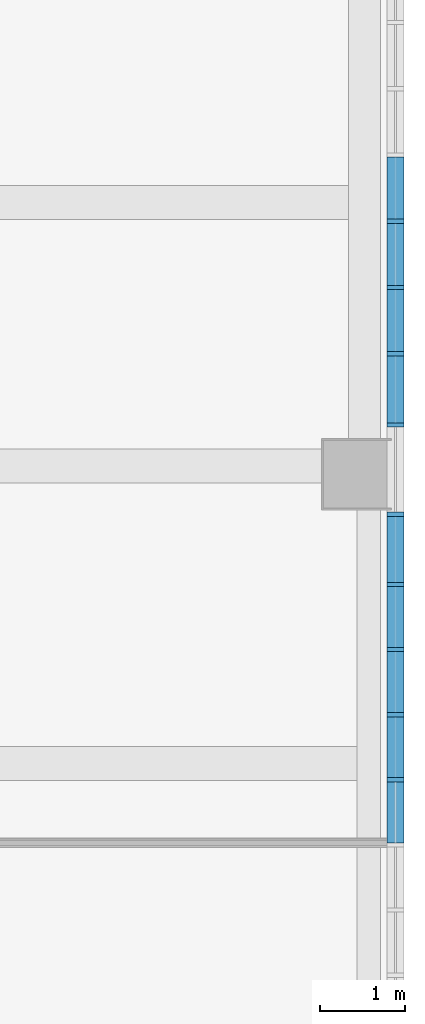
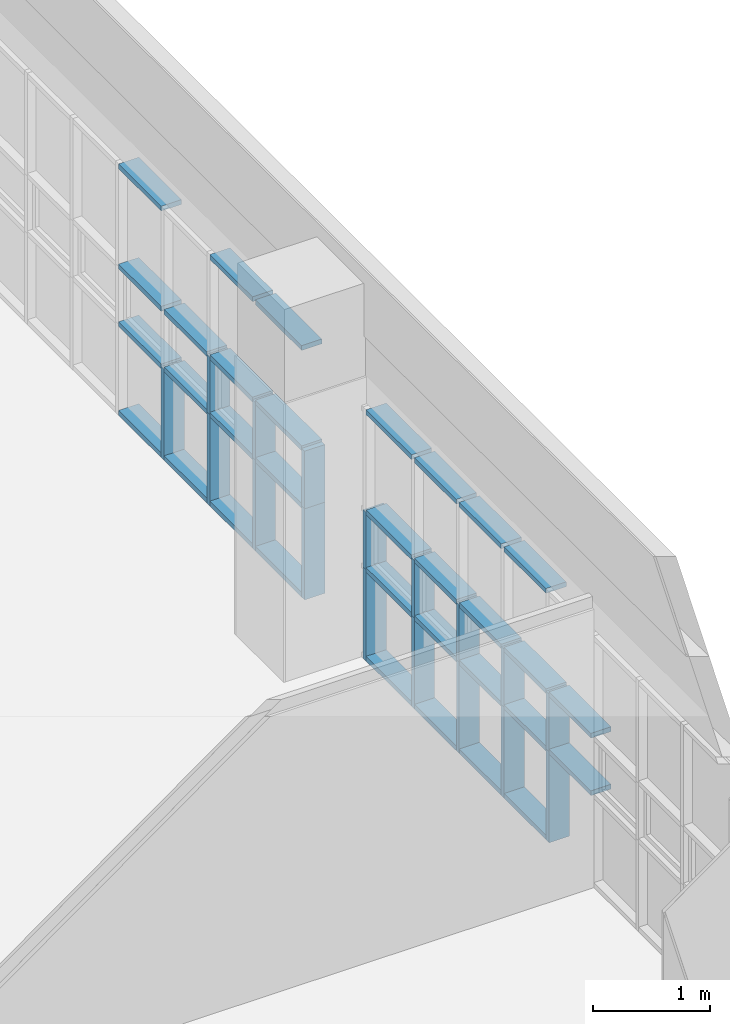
# One storey, part 24 of 76: 50 members, 1 element without a shape of its own.
"""IFC2X3 building model written with IfcOpenShell, lengths in millimetres."""

from ifc_helpers import new_model, entity, si_unit, converted_unit, derived_unit, direction, frame, origin, origin_2d_with_axis, place, context, subcontext, project, spatial, rectangle, extrude, source, transform, mapped, material, type_object, type_shapes, element, aggregate, save


model = new_model("IFC2X3")

# Units and contexts
model_context = context("Model", 3, precision=0.01, world=origin(), true_north=direction((6.123031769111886e-17, 1.0)))
body_context = subcontext(model_context, "Body", "Model", "MODEL_VIEW")
ifc_project = project(units=[si_unit("LENGTHUNIT", "METRE", prefix="MILLI"), si_unit("AREAUNIT", "SQUARE_METRE"), si_unit("VOLUMEUNIT", "CUBIC_METRE"), converted_unit("PLANEANGLEUNIT", "DEGREE", entity("IfcRatioMeasure", 0.017453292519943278), si_unit("PLANEANGLEUNIT", "RADIAN"), dimensions=[0, 0, 0, 0, 0, 0, 0]), si_unit("MASSUNIT", "GRAM", prefix="KILO"), derived_unit("MASSDENSITYUNIT", [(si_unit("MASSUNIT", "GRAM", prefix="KILO"), 1), (si_unit("LENGTHUNIT", "METRE"), -3)]), derived_unit("MOMENTOFINERTIAUNIT", [(si_unit("LENGTHUNIT", "METRE"), 4)]), si_unit("TIMEUNIT", "SECOND"), si_unit("FREQUENCYUNIT", "HERTZ"), si_unit("THERMODYNAMICTEMPERATUREUNIT", "DEGREE_CELSIUS"), derived_unit("THERMALTRANSMITTANCEUNIT", [(si_unit("MASSUNIT", "GRAM", prefix="KILO"), 1), (si_unit("THERMODYNAMICTEMPERATUREUNIT", "KELVIN"), -1), (si_unit("TIMEUNIT", "SECOND"), -3)]), derived_unit("VOLUMETRICFLOWRATEUNIT", [(si_unit("LENGTHUNIT", "METRE"), 3), (si_unit("TIMEUNIT", "SECOND"), -1)]), derived_unit("MASSFLOWRATEUNIT", [(si_unit("MASSUNIT", "GRAM", prefix="KILO"), 1), (si_unit("TIMEUNIT", "SECOND"), -1)]), derived_unit("ROTATIONALFREQUENCYUNIT", [(si_unit("TIMEUNIT", "SECOND"), -1)]), si_unit("ELECTRICCURRENTUNIT", "AMPERE"), si_unit("ELECTRICVOLTAGEUNIT", "VOLT"), si_unit("POWERUNIT", "WATT"), si_unit("FORCEUNIT", "NEWTON", prefix="KILO"), si_unit("ILLUMINANCEUNIT", "LUX"), si_unit("LUMINOUSFLUXUNIT", "LUMEN"), si_unit("LUMINOUSINTENSITYUNIT", "CANDELA"), derived_unit("USERDEFINED", [(si_unit("MASSUNIT", "GRAM", prefix="KILO"), -1), (si_unit("LENGTHUNIT", "METRE"), -2), (si_unit("TIMEUNIT", "SECOND"), 3), (si_unit("LUMINOUSFLUXUNIT", "LUMEN"), 1)]), derived_unit("SOUNDPOWERUNIT", [(si_unit("MASSUNIT", "GRAM", prefix="KILO"), 1), (si_unit("LENGTHUNIT", "METRE"), 2), (si_unit("TIMEUNIT", "SECOND"), -3)]), derived_unit("SOUNDPRESSUREUNIT", [(si_unit("MASSUNIT", "GRAM", prefix="KILO"), 1), (si_unit("LENGTHUNIT", "METRE"), -1), (si_unit("TIMEUNIT", "SECOND"), -2)]), derived_unit("LINEARVELOCITYUNIT", [(si_unit("LENGTHUNIT", "METRE"), 1), (si_unit("TIMEUNIT", "SECOND"), -1)]), si_unit("PRESSUREUNIT", "PASCAL"), derived_unit("USERDEFINED", [(si_unit("LENGTHUNIT", "METRE"), -2), (si_unit("MASSUNIT", "GRAM", prefix="KILO"), 1), (si_unit("TIMEUNIT", "SECOND"), -2)]), derived_unit("LINEARFORCEUNIT", [(si_unit("MASSUNIT", "GRAM", prefix="KILO"), 1), (si_unit("LENGTHUNIT", "METRE"), 1), (si_unit("TIMEUNIT", "SECOND"), -2), (si_unit("LENGTHUNIT", "METRE"), -1)]), derived_unit("PLANARFORCEUNIT", [(si_unit("MASSUNIT", "GRAM", prefix="KILO"), 1), (si_unit("LENGTHUNIT", "METRE"), 1), (si_unit("TIMEUNIT", "SECOND"), -2), (si_unit("LENGTHUNIT", "METRE"), -2)])], contexts=[model_context])

# Site, building, storey
site_placement = place(None, frame((-14167.972527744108, -657.2125860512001, 0.0)))
site = spatial("IfcSite", under=ifc_project, at=site_placement, Name="Default", CompositionType="ELEMENT")
building_placement = place(site_placement, origin())
building = spatial("IfcBuilding", under=site, at=building_placement, Name="Sample Building", CompositionType="ELEMENT")
storey_placement = place(building_placement, frame((0.0, 0.0, 9300.0)))
storey = spatial("IfcBuildingStorey", under=building, at=storey_placement, Name="지상 3층", CompositionType="ELEMENT", Elevation=9300.000000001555)

# Curtain wall, members
curtain_wall_type = type_object("IfcCurtainWallType", Name="커튼월:CW112-스테인리스 스틸 커튼월", PredefinedType="NOTDEFINED")
curtain_wall_placement = place(storey_placement, frame((0.0, 0.0, -9300.0)))
curtain_wall = element("IfcCurtainWall", 1, at=curtain_wall_placement, inside=storey, type_object=curtain_wall_type, Name="커튼월:CW112-스테인리스 스틸 커튼월", ObjectType="커튼월:CW112-스테인리스 스틸 커튼월")
ifc_material = material(Name="<Unnamed>")
member_type_1 = type_object("IfcMemberType", Name="직사각형 멀리언:CW200-직사각형 멀리언 50x200mm", PredefinedType="MULLION", material=ifc_material)
shared_shape_1 = source(origin(), body_context, "Body", "SweptSolid", [
    extrude(rectangle(XDim=200.0, YDim=50.0, at=origin_2d_with_axis()), frame((0.0, 0.0, -600.0), z_axis=(0.0, 0.0, 1.0), x_axis=(0.0, -1.0, 0.0)), (0.0, 0.0, 1.0), 600.0),
])
type_shapes(member_type_1, [shared_shape_1])
member_1_placement = place(curtain_wall_placement, frame((51517.963828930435, 18662.817707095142, 10330.0), z_axis=(0.0, 0.0, -1.0), x_axis=(0.0, -1.0, 0.0)))
member_1 = element("IfcMember", 2, at=member_1_placement, type_object=member_type_1, material=ifc_material, Name="직사각형 멀리언:CW200-직사각형 멀리언 50x200mm", ObjectType="직사각형 멀리언:CW200-직사각형 멀리언 50x200mm", context=body_context, shape_type="MappedRepresentation", body=[
    mapped(shared_shape_1, transform((0.0, 0.0, 0.0), scale=1.0)),
])
member_type_2 = type_object("IfcMemberType", Name="직사각형 멀리언:CW200-직사각형 멀리언 50x200mm", PredefinedType="MULLION", material=ifc_material)
shared_shape_2 = source(origin(), body_context, "Body", "SweptSolid", [
    extrude(rectangle(XDim=200.0, YDim=50.0, at=origin_2d_with_axis()), frame((0.0, 0.0, -950.0), z_axis=(0.0, 0.0, 1.0), x_axis=(0.0, -1.0, 0.0)), (0.0, 0.0, 1.0), 950.0000000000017),
])
type_shapes(member_type_2, [shared_shape_2])
member_2_placement = place(curtain_wall_placement, frame((51517.963828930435, 22935.817707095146, 9380.0), z_axis=(0.0, 0.0, -1.0), x_axis=(0.0, -1.0, 0.0)))
member_2 = element("IfcMember", 3, at=member_2_placement, type_object=member_type_2, material=ifc_material, Name="직사각형 멀리언:CW200-직사각형 멀리언 50x200mm", ObjectType="직사각형 멀리언:CW200-직사각형 멀리언 50x200mm", context=body_context, shape_type="MappedRepresentation", body=[
    mapped(shared_shape_2, transform((0.0, 0.0, 0.0), scale=1.0)),
])
member_3_placement = place(curtain_wall_placement, frame((51517.963828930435, 22156.817707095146, 9380.0), z_axis=(0.0, 0.0, -1.0), x_axis=(0.0, -1.0, 0.0)))
member_3 = element("IfcMember", 4, at=member_3_placement, type_object=member_type_2, material=ifc_material, Name="직사각형 멀리언:CW200-직사각형 멀리언 50x200mm", ObjectType="직사각형 멀리언:CW200-직사각형 멀리언 50x200mm", context=body_context, shape_type="MappedRepresentation", body=[
    mapped(shared_shape_2, transform((0.0, 0.0, 0.0), scale=1.0)),
])
member_4_placement = place(curtain_wall_placement, frame((51517.963828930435, 21377.817707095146, 9380.0), z_axis=(0.0, 0.0, -1.0), x_axis=(0.0, -1.0, 0.0)))
member_4 = element("IfcMember", 5, at=member_4_placement, type_object=member_type_2, material=ifc_material, Name="직사각형 멀리언:CW200-직사각형 멀리언 50x200mm", ObjectType="직사각형 멀리언:CW200-직사각형 멀리언 50x200mm", context=body_context, shape_type="MappedRepresentation", body=[
    mapped(shared_shape_2, transform((0.0, 0.0, 0.0), scale=1.0)),
])
member_5_placement = place(curtain_wall_placement, frame((51517.963828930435, 20538.817707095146, 9380.0), z_axis=(0.0, 0.0, -1.0), x_axis=(0.0, -1.0, 0.0)))
member_5 = element("IfcMember", 6, at=member_5_placement, type_object=member_type_2, material=ifc_material, Name="직사각형 멀리언:CW200-직사각형 멀리언 50x200mm", ObjectType="직사각형 멀리언:CW200-직사각형 멀리언 50x200mm", context=body_context, shape_type="MappedRepresentation", body=[
    mapped(shared_shape_2, transform((0.0, 0.0, 0.0), scale=1.0)),
])
member_6_placement = place(curtain_wall_placement, frame((51517.963828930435, 17896.817707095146, 9380.0), z_axis=(0.0, 0.0, -1.0), x_axis=(0.0, -1.0, 0.0)))
member_6 = element("IfcMember", 7, at=member_6_placement, type_object=member_type_2, material=ifc_material, Name="직사각형 멀리언:CW200-직사각형 멀리언 50x200mm", ObjectType="직사각형 멀리언:CW200-직사각형 멀리언 50x200mm", context=body_context, shape_type="MappedRepresentation", body=[
    mapped(shared_shape_2, transform((0.0, 0.0, 0.0), scale=1.0)),
])
member_7_placement = place(curtain_wall_placement, frame((51517.963828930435, 19488.817707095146, 9380.0), z_axis=(0.0, 0.0, -1.0), x_axis=(0.0, -1.0, 0.0)))
member_7 = element("IfcMember", 8, at=member_7_placement, type_object=member_type_2, material=ifc_material, Name="직사각형 멀리언:CW200-직사각형 멀리언 50x200mm", ObjectType="직사각형 멀리언:CW200-직사각형 멀리언 50x200mm", context=body_context, shape_type="MappedRepresentation", body=[
    mapped(shared_shape_2, transform((0.0, 0.0, 0.0), scale=1.0)),
])
member_8_placement = place(curtain_wall_placement, frame((51517.96382893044, 17130.817707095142, 9380.0), z_axis=(0.0, 0.0, -1.0), x_axis=(0.0, -1.0, 0.0)))
member_8 = element("IfcMember", 9, at=member_8_placement, type_object=member_type_2, material=ifc_material, Name="직사각형 멀리언:CW200-직사각형 멀리언 50x200mm", ObjectType="직사각형 멀리언:CW200-직사각형 멀리언 50x200mm", context=body_context, shape_type="MappedRepresentation", body=[
    mapped(shared_shape_2, transform((0.0, 0.0, 0.0), scale=1.0)),
])
member_9_placement = place(curtain_wall_placement, frame((51517.96382893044, 16364.817707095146, 9380.0), z_axis=(0.0, 0.0, -1.0), x_axis=(0.0, -1.0, 0.0)))
member_9 = element("IfcMember", 10, at=member_9_placement, type_object=member_type_2, material=ifc_material, Name="직사각형 멀리언:CW200-직사각형 멀리언 50x200mm", ObjectType="직사각형 멀리언:CW200-직사각형 멀리언 50x200mm", context=body_context, shape_type="MappedRepresentation", body=[
    mapped(shared_shape_2, transform((0.0, 0.0, 0.0), scale=1.0)),
])
member_type_3 = type_object("IfcMemberType", Name="직사각형 멀리언:CW200-직사각형 멀리언 50x200mm", PredefinedType="MULLION", material=ifc_material)
shared_shape_3 = source(origin(), body_context, "Body", "SweptSolid", [
    extrude(rectangle(XDim=200.0, YDim=50.0, at=origin_2d_with_axis()), frame((0.0, 0.0, -600.0), z_axis=(0.0, 0.0, 1.0), x_axis=(0.0, -1.0, 0.0)), (0.0, 0.0, 1.0), 599.9999999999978),
])
type_shapes(member_type_3, [shared_shape_3])
member_10_placement = place(curtain_wall_placement, frame((51517.963828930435, 22156.817707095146, 10330.0), z_axis=(0.0, 0.0, -1.0), x_axis=(0.0, -1.0, 0.0)))
member_10 = element("IfcMember", 11, at=member_10_placement, type_object=member_type_3, material=ifc_material, Name="직사각형 멀리언:CW200-직사각형 멀리언 50x200mm", ObjectType="직사각형 멀리언:CW200-직사각형 멀리언 50x200mm", context=body_context, shape_type="MappedRepresentation", body=[
    mapped(shared_shape_3, transform((0.0, 0.0, 0.0), scale=1.0)),
])
member_11_placement = place(curtain_wall_placement, frame((51517.963828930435, 21377.817707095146, 10330.0), z_axis=(0.0, 0.0, -1.0), x_axis=(0.0, -1.0, 0.0)))
member_11 = element("IfcMember", 12, at=member_11_placement, type_object=member_type_3, material=ifc_material, Name="직사각형 멀리언:CW200-직사각형 멀리언 50x200mm", ObjectType="직사각형 멀리언:CW200-직사각형 멀리언 50x200mm", context=body_context, shape_type="MappedRepresentation", body=[
    mapped(shared_shape_3, transform((0.0, 0.0, 0.0), scale=1.0)),
])
member_12_placement = place(curtain_wall_placement, frame((51517.963828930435, 20538.817707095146, 10330.0), z_axis=(0.0, 0.0, -1.0), x_axis=(0.0, -1.0, 0.0)))
member_12 = element("IfcMember", 13, at=member_12_placement, type_object=member_type_3, material=ifc_material, Name="직사각형 멀리언:CW200-직사각형 멀리언 50x200mm", ObjectType="직사각형 멀리언:CW200-직사각형 멀리언 50x200mm", context=body_context, shape_type="MappedRepresentation", body=[
    mapped(shared_shape_3, transform((0.0, 0.0, 0.0), scale=1.0)),
])
member_13_placement = place(curtain_wall_placement, frame((51517.963828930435, 17896.817707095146, 10330.0), z_axis=(0.0, 0.0, -1.0), x_axis=(0.0, -1.0, 0.0)))
member_13 = element("IfcMember", 14, at=member_13_placement, type_object=member_type_3, material=ifc_material, Name="직사각형 멀리언:CW200-직사각형 멀리언 50x200mm", ObjectType="직사각형 멀리언:CW200-직사각형 멀리언 50x200mm", context=body_context, shape_type="MappedRepresentation", body=[
    mapped(shared_shape_3, transform((0.0, 0.0, 0.0), scale=1.0)),
])
member_14_placement = place(curtain_wall_placement, frame((51517.963828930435, 19488.817707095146, 10330.0), z_axis=(0.0, 0.0, -1.0), x_axis=(0.0, -1.0, 0.0)))
member_14 = element("IfcMember", 15, at=member_14_placement, type_object=member_type_3, material=ifc_material, Name="직사각형 멀리언:CW200-직사각형 멀리언 50x200mm", ObjectType="직사각형 멀리언:CW200-직사각형 멀리언 50x200mm", context=body_context, shape_type="MappedRepresentation", body=[
    mapped(shared_shape_3, transform((0.0, 0.0, 0.0), scale=1.0)),
])
member_15_placement = place(curtain_wall_placement, frame((51517.96382893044, 17130.817707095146, 10330.0), z_axis=(0.0, 0.0, -1.0), x_axis=(0.0, -1.0, 0.0)))
member_15 = element("IfcMember", 16, at=member_15_placement, type_object=member_type_3, material=ifc_material, Name="직사각형 멀리언:CW200-직사각형 멀리언 50x200mm", ObjectType="직사각형 멀리언:CW200-직사각형 멀리언 50x200mm", context=body_context, shape_type="MappedRepresentation", body=[
    mapped(shared_shape_3, transform((0.0, 0.0, 0.0), scale=1.0)),
])
member_16_placement = place(curtain_wall_placement, frame((51517.96382893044, 16364.817707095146, 10330.0), z_axis=(0.0, 0.0, -1.0), x_axis=(0.0, -1.0, 0.0)))
member_16 = element("IfcMember", 17, at=member_16_placement, type_object=member_type_3, material=ifc_material, Name="직사각형 멀리언:CW200-직사각형 멀리언 50x200mm", ObjectType="직사각형 멀리언:CW200-직사각형 멀리언 50x200mm", context=body_context, shape_type="MappedRepresentation", body=[
    mapped(shared_shape_3, transform((0.0, 0.0, 0.0), scale=1.0)),
])
member_type_4 = type_object("IfcMemberType", Name="직사각형 멀리언:CW200-직사각형 멀리언 50x200mm", PredefinedType="MULLION", material=ifc_material)
shared_shape_4 = source(origin(), body_context, "Body", "SweptSolid", [
    extrude(rectangle(XDim=200.0, YDim=50.0, at=origin_2d_with_axis()), frame((-25.0, 0.0, -729.0), z_axis=(0.0, 0.0, 1.0), x_axis=(0.0, -1.0, 0.0)), (0.0, 0.0, 1.0), 729.000000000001),
])
type_shapes(member_type_4, [shared_shape_4])
member_17_placement = place(curtain_wall_placement, frame((51517.96382893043, 23689.81770709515, 9380.0), z_axis=(0.0, 1.0, 0.0), x_axis=(0.0, 0.0, -1.0)))
member_17 = element("IfcMember", 18, at=member_17_placement, type_object=member_type_4, material=ifc_material, Name="직사각형 멀리언:CW200-직사각형 멀리언 50x200mm", ObjectType="직사각형 멀리언:CW200-직사각형 멀리언 50x200mm", context=body_context, shape_type="MappedRepresentation", body=[
    mapped(shared_shape_4, transform((0.0, 0.0, 0.0), scale=1.0)),
])
member_18_placement = place(curtain_wall_placement, frame((51517.963828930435, 22910.81770709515, 9380.0), z_axis=(0.0, 1.0, 0.0), x_axis=(0.0, 0.0, -1.0)))
member_18 = element("IfcMember", 19, at=member_18_placement, type_object=member_type_4, material=ifc_material, Name="직사각형 멀리언:CW200-직사각형 멀리언 50x200mm", ObjectType="직사각형 멀리언:CW200-직사각형 멀리언 50x200mm", context=body_context, shape_type="MappedRepresentation", body=[
    mapped(shared_shape_4, transform((0.0, 0.0, 0.0), scale=1.0)),
])
member_19_placement = place(curtain_wall_placement, frame((51517.963828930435, 22131.817707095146, 9380.0), z_axis=(0.0, 1.0, 0.0), x_axis=(0.0, 0.0, -1.0)))
member_19 = element("IfcMember", 20, at=member_19_placement, type_object=member_type_4, material=ifc_material, Name="직사각형 멀리언:CW200-직사각형 멀리언 50x200mm", ObjectType="직사각형 멀리언:CW200-직사각형 멀리언 50x200mm", context=body_context, shape_type="MappedRepresentation", body=[
    mapped(shared_shape_4, transform((0.0, 0.0, 0.0), scale=1.0)),
])
member_type_5 = type_object("IfcMemberType", Name="직사각형 멀리언:CW200-직사각형 멀리언 50x200mm", PredefinedType="MULLION", material=ifc_material)
shared_shape_5 = source(origin(), body_context, "Body", "SweptSolid", [
    extrude(rectangle(XDim=200.0, YDim=50.0, at=origin_2d_with_axis()), frame((0.0, 0.0, -729.0), z_axis=(0.0, 0.0, 1.0), x_axis=(0.0, -1.0, 0.0)), (0.0, 0.0, 1.0), 728.9999999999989),
])
type_shapes(member_type_5, [shared_shape_5])
member_20_placement = place(curtain_wall_placement, frame((51517.963828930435, 22960.817707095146, 10330.0), z_axis=(0.0, -1.0, 0.0), x_axis=(0.0, 0.0, 1.0)))
member_20 = element("IfcMember", 21, at=member_20_placement, type_object=member_type_5, material=ifc_material, Name="직사각형 멀리언:CW200-직사각형 멀리언 50x200mm", ObjectType="직사각형 멀리언:CW200-직사각형 멀리언 50x200mm", context=body_context, shape_type="MappedRepresentation", body=[
    mapped(shared_shape_5, transform((0.0, 0.0, 0.0), scale=1.0)),
])
member_21_placement = place(curtain_wall_placement, frame((51517.963828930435, 22960.817707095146, 10930.0), z_axis=(0.0, -1.0, 0.0), x_axis=(0.0, 0.0, 1.0)))
member_21 = element("IfcMember", 22, at=member_21_placement, type_object=member_type_5, material=ifc_material, Name="직사각형 멀리언:CW200-직사각형 멀리언 50x200mm", ObjectType="직사각형 멀리언:CW200-직사각형 멀리언 50x200mm", context=body_context, shape_type="MappedRepresentation", body=[
    mapped(shared_shape_5, transform((0.0, 0.0, 0.0), scale=1.0)),
])
member_22_placement = place(curtain_wall_placement, frame((51517.963828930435, 22181.817707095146, 10330.0), z_axis=(0.0, -1.0, 0.0), x_axis=(0.0, 0.0, 1.0)))
member_22 = element("IfcMember", 23, at=member_22_placement, type_object=member_type_5, material=ifc_material, Name="직사각형 멀리언:CW200-직사각형 멀리언 50x200mm", ObjectType="직사각형 멀리언:CW200-직사각형 멀리언 50x200mm", context=body_context, shape_type="MappedRepresentation", body=[
    mapped(shared_shape_5, transform((0.0, 0.0, 0.0), scale=1.0)),
])
member_23_placement = place(curtain_wall_placement, frame((51517.963828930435, 22181.817707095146, 10930.0), z_axis=(0.0, -1.0, 0.0), x_axis=(0.0, 0.0, 1.0)))
member_23 = element("IfcMember", 24, at=member_23_placement, type_object=member_type_5, material=ifc_material, Name="직사각형 멀리언:CW200-직사각형 멀리언 50x200mm", ObjectType="직사각형 멀리언:CW200-직사각형 멀리언 50x200mm", context=body_context, shape_type="MappedRepresentation", body=[
    mapped(shared_shape_5, transform((0.0, 0.0, 0.0), scale=1.0)),
])
member_24_placement = place(curtain_wall_placement, frame((51517.963828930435, 21402.817707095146, 10330.0), z_axis=(0.0, -1.0, 0.0), x_axis=(0.0, 0.0, 1.0)))
member_24 = element("IfcMember", 25, at=member_24_placement, type_object=member_type_5, material=ifc_material, Name="직사각형 멀리언:CW200-직사각형 멀리언 50x200mm", ObjectType="직사각형 멀리언:CW200-직사각형 멀리언 50x200mm", context=body_context, shape_type="MappedRepresentation", body=[
    mapped(shared_shape_5, transform((0.0, 0.0, 0.0), scale=1.0)),
])
member_25_placement = place(curtain_wall_placement, frame((51517.963828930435, 21402.817707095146, 10930.0), z_axis=(0.0, -1.0, 0.0), x_axis=(0.0, 0.0, 1.0)))
member_25 = element("IfcMember", 26, at=member_25_placement, type_object=member_type_5, material=ifc_material, Name="직사각형 멀리언:CW200-직사각형 멀리언 50x200mm", ObjectType="직사각형 멀리언:CW200-직사각형 멀리언 50x200mm", context=body_context, shape_type="MappedRepresentation", body=[
    mapped(shared_shape_5, transform((0.0, 0.0, 0.0), scale=1.0)),
])
member_type_6 = type_object("IfcMemberType", Name="직사각형 멀리언:CW200-직사각형 멀리언 50x200mm", PredefinedType="MULLION", material=ifc_material)
shared_shape_6 = source(origin(), body_context, "Body", "SweptSolid", [
    extrude(rectangle(XDim=200.0, YDim=50.0, at=origin_2d_with_axis()), frame((-25.0, 0.0, -729.0), z_axis=(0.0, 0.0, 1.0), x_axis=(0.0, -1.0, 0.0)), (0.0, 0.0, 1.0), 728.9999999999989),
])
type_shapes(member_type_6, [shared_shape_6])
member_26_placement = place(curtain_wall_placement, frame((51517.963828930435, 22960.817707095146, 12000.0), z_axis=(0.0, -1.0, 0.0), x_axis=(0.0, 0.0, 1.0)))
member_26 = element("IfcMember", 27, at=member_26_placement, type_object=member_type_6, material=ifc_material, Name="직사각형 멀리언:CW200-직사각형 멀리언 50x200mm", ObjectType="직사각형 멀리언:CW200-직사각형 멀리언 50x200mm", context=body_context, shape_type="MappedRepresentation", body=[
    mapped(shared_shape_6, transform((0.0, 0.0, 0.0), scale=1.0)),
])
member_27_placement = place(curtain_wall_placement, frame((51517.963828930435, 21402.817707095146, 12000.0), z_axis=(0.0, -1.0, 0.0), x_axis=(0.0, 0.0, 1.0)))
member_27 = element("IfcMember", 28, at=member_27_placement, type_object=member_type_6, material=ifc_material, Name="직사각형 멀리언:CW200-직사각형 멀리언 50x200mm", ObjectType="직사각형 멀리언:CW200-직사각형 멀리언 50x200mm", context=body_context, shape_type="MappedRepresentation", body=[
    mapped(shared_shape_6, transform((0.0, 0.0, 0.0), scale=1.0)),
])
member_type_7 = type_object("IfcMemberType", Name="직사각형 멀리언:CW200-직사각형 멀리언 50x200mm", PredefinedType="MULLION", material=ifc_material)
shared_shape_7 = source(origin(), body_context, "Body", "SweptSolid", [
    extrude(rectangle(XDim=200.0, YDim=50.0, at=origin_2d_with_axis()), frame((-25.0, 0.0, -789.0), z_axis=(0.0, 0.0, 1.0), x_axis=(0.0, -1.0, 0.0)), (0.0, 0.0, 1.0), 789.0000000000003),
])
type_shapes(member_type_7, [shared_shape_7])
member_28_placement = place(curtain_wall_placement, frame((51517.963828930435, 21352.817707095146, 9380.0), z_axis=(0.0, 1.0, 0.0), x_axis=(0.0, 0.0, -1.0)))
member_28 = element("IfcMember", 29, at=member_28_placement, type_object=member_type_7, material=ifc_material, Name="직사각형 멀리언:CW200-직사각형 멀리언 50x200mm", ObjectType="직사각형 멀리언:CW200-직사각형 멀리언 50x200mm", context=body_context, shape_type="MappedRepresentation", body=[
    mapped(shared_shape_7, transform((0.0, 0.0, 0.0), scale=1.0)),
])
member_type_8 = type_object("IfcMemberType", Name="직사각형 멀리언:CW200-직사각형 멀리언 50x200mm", PredefinedType="MULLION", material=ifc_material)
shared_shape_8 = source(origin(), body_context, "Body", "SweptSolid", [
    extrude(rectangle(XDim=200.0, YDim=50.0, at=origin_2d_with_axis()), frame((0.0, 0.0, -789.0), z_axis=(0.0, 0.0, 1.0), x_axis=(0.0, -1.0, 0.0)), (0.0, 0.0, 1.0), 788.9999999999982),
])
type_shapes(member_type_8, [shared_shape_8])
member_29_placement = place(curtain_wall_placement, frame((51517.963828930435, 20563.817707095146, 10330.0), z_axis=(0.0, -1.0, 0.0), x_axis=(0.0, 0.0, 1.0)))
member_29 = element("IfcMember", 30, at=member_29_placement, type_object=member_type_8, material=ifc_material, Name="직사각형 멀리언:CW200-직사각형 멀리언 50x200mm", ObjectType="직사각형 멀리언:CW200-직사각형 멀리언 50x200mm", context=body_context, shape_type="MappedRepresentation", body=[
    mapped(shared_shape_8, transform((0.0, 0.0, 0.0), scale=1.0)),
])
member_30_placement = place(curtain_wall_placement, frame((51517.963828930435, 20563.817707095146, 10930.0), z_axis=(0.0, -1.0, 0.0), x_axis=(0.0, 0.0, 1.0)))
member_30 = element("IfcMember", 31, at=member_30_placement, type_object=member_type_8, material=ifc_material, Name="직사각형 멀리언:CW200-직사각형 멀리언 50x200mm", ObjectType="직사각형 멀리언:CW200-직사각형 멀리언 50x200mm", context=body_context, shape_type="MappedRepresentation", body=[
    mapped(shared_shape_8, transform((0.0, 0.0, 0.0), scale=1.0)),
])
member_type_9 = type_object("IfcMemberType", Name="직사각형 멀리언:CW200-직사각형 멀리언 50x200mm", PredefinedType="MULLION", material=ifc_material)
shared_shape_9 = source(origin(), body_context, "Body", "SweptSolid", [
    extrude(rectangle(XDim=200.0, YDim=50.0, at=origin_2d_with_axis()), frame((-25.0, 0.0, -789.0), z_axis=(0.0, 0.0, 1.0), x_axis=(0.0, -1.0, 0.0)), (0.0, 0.0, 1.0), 788.9999999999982),
])
type_shapes(member_type_9, [shared_shape_9])
member_31_placement = place(curtain_wall_placement, frame((51517.963828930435, 20563.817707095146, 12000.0), z_axis=(0.0, -1.0, 0.0), x_axis=(0.0, 0.0, 1.0)))
member_31 = element("IfcMember", 32, at=member_31_placement, type_object=member_type_9, material=ifc_material, Name="직사각형 멀리언:CW200-직사각형 멀리언 50x200mm", ObjectType="직사각형 멀리언:CW200-직사각형 멀리언 50x200mm", context=body_context, shape_type="MappedRepresentation", body=[
    mapped(shared_shape_9, transform((0.0, 0.0, 0.0), scale=1.0)),
])
member_type_10 = type_object("IfcMemberType", Name="직사각형 멀리언:CW200-직사각형 멀리언 50x200mm", PredefinedType="MULLION", material=ifc_material)
shared_shape_10 = source(origin(), body_context, "Body", "SweptSolid", [
    extrude(rectangle(XDim=200.0, YDim=50.0, at=origin_2d_with_axis()), frame((-25.0, 0.0, -716.0), z_axis=(0.0, 0.0, 1.0), x_axis=(0.0, -1.0, 0.0)), (0.0, 0.0, 1.0), 715.9999999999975),
])
type_shapes(member_type_10, [shared_shape_10])
member_32_placement = place(curtain_wall_placement, frame((51517.963828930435, 17921.817707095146, 12000.0), z_axis=(0.0, -1.0, 0.0), x_axis=(0.0, 0.0, 1.0)))
member_32 = element("IfcMember", 33, at=member_32_placement, type_object=member_type_10, material=ifc_material, Name="직사각형 멀리언:CW200-직사각형 멀리언 50x200mm", ObjectType="직사각형 멀리언:CW200-직사각형 멀리언 50x200mm", context=body_context, shape_type="MappedRepresentation", body=[
    mapped(shared_shape_10, transform((0.0, 0.0, 0.0), scale=1.0)),
])
member_33_placement = place(curtain_wall_placement, frame((51517.96382893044, 17155.817707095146, 12000.0), z_axis=(0.0, -1.0, 0.0), x_axis=(0.0, 0.0, 1.0)))
member_33 = element("IfcMember", 34, at=member_33_placement, type_object=member_type_10, material=ifc_material, Name="직사각형 멀리언:CW200-직사각형 멀리언 50x200mm", ObjectType="직사각형 멀리언:CW200-직사각형 멀리언 50x200mm", context=body_context, shape_type="MappedRepresentation", body=[
    mapped(shared_shape_10, transform((0.0, 0.0, 0.0), scale=1.0)),
])
member_34_placement = place(curtain_wall_placement, frame((51517.96382893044, 16389.817707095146, 12000.0), z_axis=(0.0, -1.0, 0.0), x_axis=(0.0, 0.0, 1.0)))
member_34 = element("IfcMember", 35, at=member_34_placement, type_object=member_type_10, material=ifc_material, Name="직사각형 멀리언:CW200-직사각형 멀리언 50x200mm", ObjectType="직사각형 멀리언:CW200-직사각형 멀리언 50x200mm", context=body_context, shape_type="MappedRepresentation", body=[
    mapped(shared_shape_10, transform((0.0, 0.0, 0.0), scale=1.0)),
])
member_type_11 = type_object("IfcMemberType", Name="직사각형 멀리언:CW200-직사각형 멀리언 50x200mm", PredefinedType="MULLION", material=ifc_material)
shared_shape_11 = source(origin(), body_context, "Body", "SweptSolid", [
    extrude(rectangle(XDim=200.0, YDim=50.0, at=origin_2d_with_axis()), frame((-25.0, 0.0, -716.0), z_axis=(0.0, 0.0, 1.0), x_axis=(0.0, -1.0, 0.0)), (0.0, 0.0, 1.0), 716.0000000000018),
])
type_shapes(member_type_11, [shared_shape_11])
member_35_placement = place(curtain_wall_placement, frame((51517.963828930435, 17871.817707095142, 9380.0), z_axis=(0.0, 1.0, 0.0), x_axis=(0.0, 0.0, -1.0)))
member_35 = element("IfcMember", 36, at=member_35_placement, type_object=member_type_11, material=ifc_material, Name="직사각형 멀리언:CW200-직사각형 멀리언 50x200mm", ObjectType="직사각형 멀리언:CW200-직사각형 멀리언 50x200mm", context=body_context, shape_type="MappedRepresentation", body=[
    mapped(shared_shape_11, transform((0.0, 0.0, 0.0), scale=1.0)),
])
member_36_placement = place(curtain_wall_placement, frame((51517.96382893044, 17105.817707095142, 9380.0), z_axis=(0.0, 1.0, 0.0), x_axis=(0.0, 0.0, -1.0)))
member_36 = element("IfcMember", 37, at=member_36_placement, type_object=member_type_11, material=ifc_material, Name="직사각형 멀리언:CW200-직사각형 멀리언 50x200mm", ObjectType="직사각형 멀리언:CW200-직사각형 멀리언 50x200mm", context=body_context, shape_type="MappedRepresentation", body=[
    mapped(shared_shape_11, transform((0.0, 0.0, 0.0), scale=1.0)),
])
member_type_12 = type_object("IfcMemberType", Name="직사각형 멀리언:CW200-직사각형 멀리언 50x200mm", PredefinedType="MULLION", material=ifc_material)
shared_shape_12 = source(origin(), body_context, "Body", "SweptSolid", [
    extrude(rectangle(XDim=200.0, YDim=50.0, at=origin_2d_with_axis()), frame((0.0, 0.0, -716.0), z_axis=(0.0, 0.0, 1.0), x_axis=(0.0, -1.0, 0.0)), (0.0, 0.0, 1.0), 715.9999999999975),
])
type_shapes(member_type_12, [shared_shape_12])
member_37_placement = place(curtain_wall_placement, frame((51517.96382893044, 17155.817707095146, 10330.0), z_axis=(0.0, -1.0, 0.0), x_axis=(0.0, 0.0, 1.0)))
member_37 = element("IfcMember", 38, at=member_37_placement, type_object=member_type_12, material=ifc_material, Name="직사각형 멀리언:CW200-직사각형 멀리언 50x200mm", ObjectType="직사각형 멀리언:CW200-직사각형 멀리언 50x200mm", context=body_context, shape_type="MappedRepresentation", body=[
    mapped(shared_shape_12, transform((0.0, 0.0, 0.0), scale=1.0)),
])
member_38_placement = place(curtain_wall_placement, frame((51517.96382893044, 17155.817707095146, 10930.0), z_axis=(0.0, -1.0, 0.0), x_axis=(0.0, 0.0, 1.0)))
member_38 = element("IfcMember", 39, at=member_38_placement, type_object=member_type_12, material=ifc_material, Name="직사각형 멀리언:CW200-직사각형 멀리언 50x200mm", ObjectType="직사각형 멀리언:CW200-직사각형 멀리언 50x200mm", context=body_context, shape_type="MappedRepresentation", body=[
    mapped(shared_shape_12, transform((0.0, 0.0, 0.0), scale=1.0)),
])
member_39_placement = place(curtain_wall_placement, frame((51517.96382893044, 16389.817707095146, 10330.0), z_axis=(0.0, -1.0, 0.0), x_axis=(0.0, 0.0, 1.0)))
member_39 = element("IfcMember", 40, at=member_39_placement, type_object=member_type_12, material=ifc_material, Name="직사각형 멀리언:CW200-직사각형 멀리언 50x200mm", ObjectType="직사각형 멀리언:CW200-직사각형 멀리언 50x200mm", context=body_context, shape_type="MappedRepresentation", body=[
    mapped(shared_shape_12, transform((0.0, 0.0, 0.0), scale=1.0)),
])
member_40_placement = place(curtain_wall_placement, frame((51517.96382893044, 16389.817707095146, 10930.0), z_axis=(0.0, -1.0, 0.0), x_axis=(0.0, 0.0, 1.0)))
member_40 = element("IfcMember", 41, at=member_40_placement, type_object=member_type_12, material=ifc_material, Name="직사각형 멀리언:CW200-직사각형 멀리언 50x200mm", ObjectType="직사각형 멀리언:CW200-직사각형 멀리언 50x200mm", context=body_context, shape_type="MappedRepresentation", body=[
    mapped(shared_shape_12, transform((0.0, 0.0, 0.0), scale=1.0)),
])
member_41_placement = place(curtain_wall_placement, frame((51517.96382893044, 15623.817707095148, 10330.0), z_axis=(0.0, -1.0, 0.0), x_axis=(0.0, 0.0, 1.0)))
member_41 = element("IfcMember", 42, at=member_41_placement, type_object=member_type_12, material=ifc_material, Name="직사각형 멀리언:CW200-직사각형 멀리언 50x200mm", ObjectType="직사각형 멀리언:CW200-직사각형 멀리언 50x200mm", context=body_context, shape_type="MappedRepresentation", body=[
    mapped(shared_shape_12, transform((0.0, 0.0, 0.0), scale=1.0)),
])
member_42_placement = place(curtain_wall_placement, frame((51517.96382893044, 15623.817707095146, 10930.0), z_axis=(0.0, -1.0, 0.0), x_axis=(0.0, 0.0, 1.0)))
member_42 = element("IfcMember", 43, at=member_42_placement, type_object=member_type_12, material=ifc_material, Name="직사각형 멀리언:CW200-직사각형 멀리언 50x200mm", ObjectType="직사각형 멀리언:CW200-직사각형 멀리언 50x200mm", context=body_context, shape_type="MappedRepresentation", body=[
    mapped(shared_shape_12, transform((0.0, 0.0, 0.0), scale=1.0)),
])
member_type_13 = type_object("IfcMemberType", Name="직사각형 멀리언:CW200-직사각형 멀리언 50x200mm", PredefinedType="MULLION", material=ifc_material)
shared_shape_13 = source(origin(), body_context, "Body", "SweptSolid", [
    extrude(rectangle(XDim=200.0, YDim=50.0, at=origin_2d_with_axis()), frame((-25.0, 0.0, -776.0), z_axis=(0.0, 0.0, 1.0), x_axis=(0.0, -1.0, 0.0)), (0.0, 0.0, 1.0), 776.0000000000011),
])
type_shapes(member_type_13, [shared_shape_13])
member_43_placement = place(curtain_wall_placement, frame((51517.963828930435, 19463.817707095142, 9380.0), z_axis=(0.0, 1.0, 0.0), x_axis=(0.0, 0.0, -1.0)))
member_43 = element("IfcMember", 44, at=member_43_placement, type_object=member_type_13, material=ifc_material, Name="직사각형 멀리언:CW200-직사각형 멀리언 50x200mm", ObjectType="직사각형 멀리언:CW200-직사각형 멀리언 50x200mm", context=body_context, shape_type="MappedRepresentation", body=[
    mapped(shared_shape_13, transform((0.0, 0.0, 0.0), scale=1.0)),
])
member_type_14 = type_object("IfcMemberType", Name="직사각형 멀리언:CW200-직사각형 멀리언 50x200mm", PredefinedType="MULLION", material=ifc_material)
shared_shape_14 = source(origin(), body_context, "Body", "SweptSolid", [
    extrude(rectangle(XDim=200.0, YDim=50.0, at=origin_2d_with_axis()), frame((0.0, 0.0, -776.0), z_axis=(0.0, 0.0, 1.0), x_axis=(0.0, -1.0, 0.0)), (0.0, 0.0, 1.0), 775.999999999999),
])
type_shapes(member_type_14, [shared_shape_14])
member_44_placement = place(curtain_wall_placement, frame((51517.963828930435, 18687.817707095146, 10330.0), z_axis=(0.0, -1.0, 0.0), x_axis=(0.0, 0.0, 1.0)))
member_44 = element("IfcMember", 45, at=member_44_placement, type_object=member_type_14, material=ifc_material, Name="직사각형 멀리언:CW200-직사각형 멀리언 50x200mm", ObjectType="직사각형 멀리언:CW200-직사각형 멀리언 50x200mm", context=body_context, shape_type="MappedRepresentation", body=[
    mapped(shared_shape_14, transform((0.0, 0.0, 0.0), scale=1.0)),
])
member_45_placement = place(curtain_wall_placement, frame((51517.963828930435, 18687.817707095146, 10930.0), z_axis=(0.0, -1.0, 0.0), x_axis=(0.0, 0.0, 1.0)))
member_45 = element("IfcMember", 46, at=member_45_placement, type_object=member_type_14, material=ifc_material, Name="직사각형 멀리언:CW200-직사각형 멀리언 50x200mm", ObjectType="직사각형 멀리언:CW200-직사각형 멀리언 50x200mm", context=body_context, shape_type="MappedRepresentation", body=[
    mapped(shared_shape_14, transform((0.0, 0.0, 0.0), scale=1.0)),
])
member_type_15 = type_object("IfcMemberType", Name="직사각형 멀리언:CW200-직사각형 멀리언 50x200mm", PredefinedType="MULLION", material=ifc_material)
shared_shape_15 = source(origin(), body_context, "Body", "SweptSolid", [
    extrude(rectangle(XDim=200.0, YDim=50.0, at=origin_2d_with_axis()), frame((-25.0, 0.0, -716.0), z_axis=(0.0, 0.0, 1.0), x_axis=(0.0, -1.0, 0.0)), (0.0, 0.0, 1.0), 715.9999999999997),
])
type_shapes(member_type_15, [shared_shape_15])
member_46_placement = place(curtain_wall_placement, frame((51517.963828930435, 18637.817707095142, 9380.0), z_axis=(0.0, 1.0, 0.0), x_axis=(0.0, 0.0, -1.0)))
member_46 = element("IfcMember", 47, at=member_46_placement, type_object=member_type_15, material=ifc_material, Name="직사각형 멀리언:CW200-직사각형 멀리언 50x200mm", ObjectType="직사각형 멀리언:CW200-직사각형 멀리언 50x200mm", context=body_context, shape_type="MappedRepresentation", body=[
    mapped(shared_shape_15, transform((0.0, 0.0, 0.0), scale=1.0)),
])
member_type_16 = type_object("IfcMemberType", Name="직사각형 멀리언:CW200-직사각형 멀리언 50x200mm", PredefinedType="MULLION", material=ifc_material)
shared_shape_16 = source(origin(), body_context, "Body", "SweptSolid", [
    extrude(rectangle(XDim=200.0, YDim=50.0, at=origin_2d_with_axis()), frame((0.0, 0.0, -716.0), z_axis=(0.0, 0.0, 1.0), x_axis=(0.0, -1.0, 0.0)), (0.0, 0.0, 1.0), 715.9999999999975),
])
type_shapes(member_type_16, [shared_shape_16])
member_47_placement = place(curtain_wall_placement, frame((51517.963828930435, 17921.817707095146, 10330.0), z_axis=(0.0, -1.0, 0.0), x_axis=(0.0, 0.0, 1.0)))
member_47 = element("IfcMember", 48, at=member_47_placement, type_object=member_type_16, material=ifc_material, Name="직사각형 멀리언:CW200-직사각형 멀리언 50x200mm", ObjectType="직사각형 멀리언:CW200-직사각형 멀리언 50x200mm", context=body_context, shape_type="MappedRepresentation", body=[
    mapped(shared_shape_16, transform((0.0, 0.0, 0.0), scale=1.0)),
])
member_48_placement = place(curtain_wall_placement, frame((51517.963828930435, 17921.817707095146, 10930.0), z_axis=(0.0, -1.0, 0.0), x_axis=(0.0, 0.0, 1.0)))
member_48 = element("IfcMember", 49, at=member_48_placement, type_object=member_type_16, material=ifc_material, Name="직사각형 멀리언:CW200-직사각형 멀리언 50x200mm", ObjectType="직사각형 멀리언:CW200-직사각형 멀리언 50x200mm", context=body_context, shape_type="MappedRepresentation", body=[
    mapped(shared_shape_16, transform((0.0, 0.0, 0.0), scale=1.0)),
])
member_type_17 = type_object("IfcMemberType", Name="직사각형 멀리언:CW200-직사각형 멀리언 50x200mm", PredefinedType="MULLION", material=ifc_material)
shared_shape_17 = source(origin(), body_context, "Body", "SweptSolid", [
    extrude(rectangle(XDim=200.0, YDim=50.0, at=origin_2d_with_axis()), frame((0.0, 0.0, -950.0), z_axis=(0.0, 0.0, 1.0), x_axis=(0.0, -1.0, 0.0)), (0.0, 0.0, 1.0), 950.0000000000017),
])
type_shapes(member_type_17, [shared_shape_17])
member_49_placement = place(curtain_wall_placement, frame((51517.963828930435, 18662.817707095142, 9380.0), z_axis=(0.0, 0.0, -1.0), x_axis=(0.0, -1.0, 0.0)))
member_49 = element("IfcMember", 50, at=member_49_placement, type_object=member_type_17, material=ifc_material, Name="직사각형 멀리언:CW200-직사각형 멀리언 50x200mm", ObjectType="직사각형 멀리언:CW200-직사각형 멀리언 50x200mm", context=body_context, shape_type="MappedRepresentation", body=[
    mapped(shared_shape_17, transform((0.0, 0.0, 0.0), scale=1.0)),
])
member_type_18 = type_object("IfcMemberType", Name="직사각형 멀리언:CW200-직사각형 멀리언 50x200mm", PredefinedType="MULLION", material=ifc_material)
shared_shape_18 = source(origin(), body_context, "Body", "SweptSolid", [
    extrude(rectangle(XDim=200.0, YDim=50.0, at=origin_2d_with_axis()), frame((-25.0, 0.0, -776.0), z_axis=(0.0, 0.0, 1.0), x_axis=(0.0, -1.0, 0.0)), (0.0, 0.0, 1.0), 775.999999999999),
])
type_shapes(member_type_18, [shared_shape_18])
member_50_placement = place(curtain_wall_placement, frame((51517.963828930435, 18687.817707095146, 12000.0), z_axis=(0.0, -1.0, 0.0), x_axis=(0.0, 0.0, 1.0)))
member_50 = element("IfcMember", 51, at=member_50_placement, type_object=member_type_18, material=ifc_material, Name="직사각형 멀리언:CW200-직사각형 멀리언 50x200mm", ObjectType="직사각형 멀리언:CW200-직사각형 멀리언 50x200mm", context=body_context, shape_type="MappedRepresentation", body=[
    mapped(shared_shape_18, transform((0.0, 0.0, 0.0), scale=1.0)),
])
aggregate(curtain_wall, [member_17, member_20, member_21, member_26, member_18, member_22, member_23, member_2, member_19, member_24, member_25, member_3, member_10, member_27, member_28, member_29, member_30, member_4, member_11, member_31, member_5, member_12, member_32, member_35, member_37, member_38, member_6, member_13, member_43, member_44, member_45, member_7, member_14, member_33, member_36, member_39, member_40, member_8, member_15, member_41, member_42, member_34, member_9, member_16, member_50, member_46, member_47, member_48, member_49, member_1])

save(model, "model.ifc")
